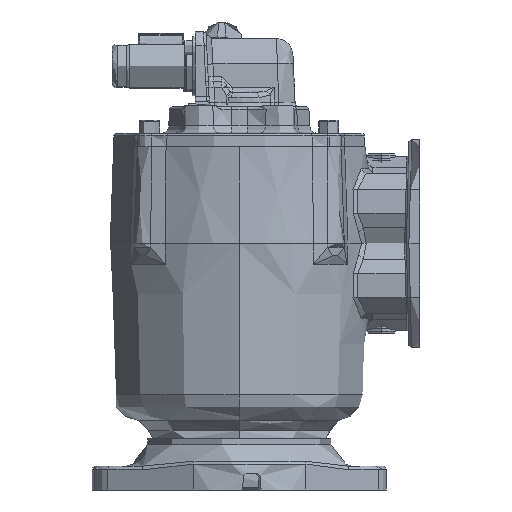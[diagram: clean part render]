
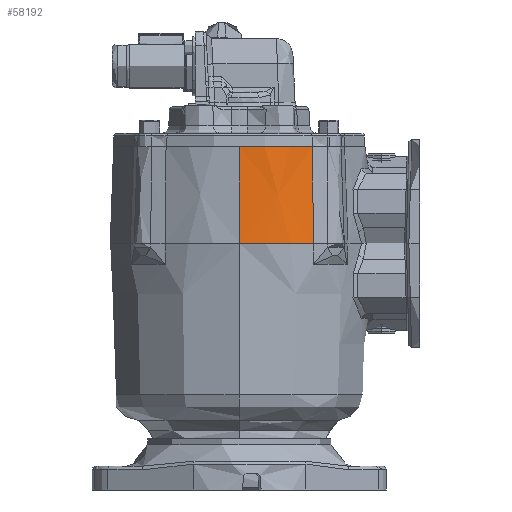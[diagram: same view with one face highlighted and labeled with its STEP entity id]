
A CAD part, left-side view. The second image highlights one B-rep face of the part: STEP entity #58192.
In plain terms, the highlighted conical face has half-angle 2 degrees and reference radius 78.232 mm.
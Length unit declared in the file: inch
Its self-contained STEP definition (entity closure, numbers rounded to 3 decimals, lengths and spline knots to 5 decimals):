
#385 = CARTESIAN_POINT ( 'NONE',  ( -3.79389, 1.59322, 0. ) ) ;
#951 = CONICAL_SURFACE ( 'NONE', #102970, 3.08, 0.035 ) ;
#3981 = DIRECTION ( 'NONE',  ( -1., 0., 0. ) ) ;
#8542 = DIRECTION ( 'NONE',  ( 0., 0., -1. ) ) ;
#12656 = CARTESIAN_POINT ( 'NONE',  ( -3.76669, 1.60156, 0.77814 ) ) ;
#15718 = ORIENTED_EDGE ( 'NONE', *, *, #57596, .T. ) ;
#17300 = ORIENTED_EDGE ( 'NONE', *, *, #58519, .T. ) ;
#17448 = EDGE_LOOP ( 'NONE', ( #17300, #65700, #131459, #15718 ) ) ;
#22857 = CARTESIAN_POINT ( 'NONE',  ( -3.74018, 1.60955, 1.53298 ) ) ;
#38084 = DIRECTION ( 'NONE',  ( 0., 0., -1. ) ) ;
#44342 = AXIS2_PLACEMENT_3D ( 'NONE', #120169, #56325, #3981 ) ;
#46632 = CARTESIAN_POINT ( 'NONE',  ( -4.33, 3.3296, 0. ) ) ;
#49142 = VECTOR ( 'NONE', #68986, 39.37008 ) ;
#50038 = DIRECTION ( 'NONE',  ( 1., 0., 0. ) ) ;
#51669 = EDGE_CURVE ( 'NONE', #128352, #106570, #57514, .T. ) ;
#56325 = DIRECTION ( 'NONE',  ( 0., 0., -1. ) ) ;
#57514 = CIRCLE ( 'NONE', #129158, 3.08 ) ;
#57596 = EDGE_CURVE ( 'NONE', #128352, #102778, #112059, .T. ) ;
#58192 = ADVANCED_FACE ( 'NONE', ( #108160 ), #951, .T. ) ;
#58519 = EDGE_CURVE ( 'NONE', #102778, #60137, #83466, .T. ) ;
#60137 = VERTEX_POINT ( 'NONE', #116115 ) ;
#61609 = EDGE_CURVE ( 'NONE', #60137, #106570, #131527, .T. ) ;
#65700 = ORIENTED_EDGE ( 'NONE', *, *, #61609, .T. ) ;
#68986 = DIRECTION ( 'NONE',  ( -0.035, 0., -0.999 ) ) ;
#69663 = CARTESIAN_POINT ( 'NONE',  ( -4.33, 3.3296, 0. ) ) ;
#74518 = CARTESIAN_POINT ( 'NONE',  ( -3.79389, 1.59322, 0. ) ) ;
#78233 = CARTESIAN_POINT ( 'NONE',  ( -1.25, 3.3296, 0. ) ) ;
#83466 = CIRCLE ( 'NONE', #44342, 3.00092 ) ;
#90181 = CARTESIAN_POINT ( 'NONE',  ( -3.71437, 1.61717, 2.2645 ) ) ;
#102778 = VERTEX_POINT ( 'NONE', #90181 ) ;
#102970 = AXIS2_PLACEMENT_3D ( 'NONE', #78233, #38084, #109474 ) ;
#104396 = CARTESIAN_POINT ( 'NONE',  ( -1.25, 3.3296, 0. ) ) ;
#106570 = VERTEX_POINT ( 'NONE', #46632 ) ;
#108160 = FACE_OUTER_BOUND ( 'NONE', #17448, .T. ) ;
#109474 = DIRECTION ( 'NONE',  ( -1., 0., 0. ) ) ;
#112059 = B_SPLINE_CURVE_WITH_KNOTS ( 'NONE', 3,
 ( #74518, #12656, #22857, #118644 ),
 .UNSPECIFIED., .F., .F.,
 ( 4, 4 ),
 ( 0., 1. ),
 .UNSPECIFIED. ) ;
#116115 = CARTESIAN_POINT ( 'NONE',  ( -4.25092, 3.3296, 2.2645 ) ) ;
#118644 = CARTESIAN_POINT ( 'NONE',  ( -3.71437, 1.61717, 2.2645 ) ) ;
#120169 = CARTESIAN_POINT ( 'NONE',  ( -1.25, 3.3296, 2.2645 ) ) ;
#128352 = VERTEX_POINT ( 'NONE', #385 ) ;
#129158 = AXIS2_PLACEMENT_3D ( 'NONE', #104396, #8542, #50038 ) ;
#131459 = ORIENTED_EDGE ( 'NONE', *, *, #51669, .F. ) ;
#131527 = LINE ( 'NONE', #69663, #49142 ) ;
